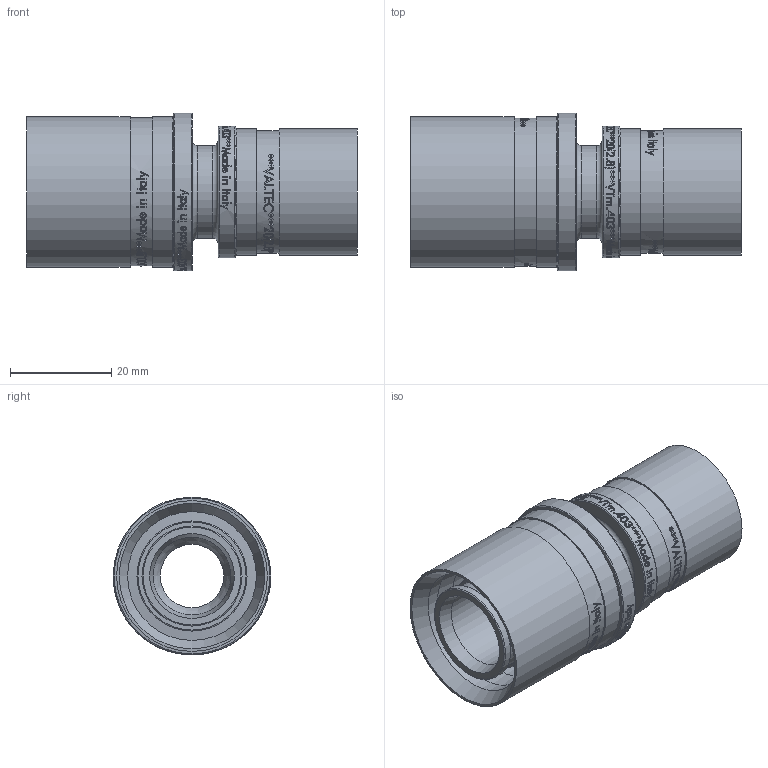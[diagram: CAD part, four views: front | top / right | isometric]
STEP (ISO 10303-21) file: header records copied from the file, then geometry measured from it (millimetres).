
FILE_DESCRIPTION(/* description */ (''),/* implementation_level */ '2;1');
FILE_NAME(/* name */ 'F:\Артём\00000\Работа удаленка\Аксеальные фитинги\VTm.403.BG.002520.stp',/* time_stamp */ '2021-01-25T16:23:26+03:00',/* author */ ('almis'),/* organization */ (''),/* preprocessor_version */ 'ST-DEVELOPER v18',/* originating_system */ 'Autodesk Inventor 2020',/* authorisation */ '');
FILE_SCHEMA (('AUTOMOTIVE_DESIGN { 1 0 10303 214 3 1 1 }'));
Length unit declared in the file: millimetre
Products named in the file (1): VTm.403.BG.002520
Bounding box: 65.53 x 31.2 x 31.2 mm (x, y, z)
Volume: 16799.7 mm3; surface area: 17404.4 mm2
Topology: 1 solids, 1 shells, 2513 faces, 6915 edges, 4641 vertices
Faces by surface type: bspline 1420, plane 778, cylinder 255, torus 46, cone 14
Full cylindrical faces by diameter (mm): 12.6 x1, 15.4 x1, 15.7 x5, 16.5 x4, 18.2 x1, 18.3 x6, 19.8 x4, 20.65 x2, 21.8 x1, 24.3 x1, 25 x2, 25.5 x2, 26 x1, 29.3 x1, 29.85 x2, 31.2 x1
Entity records: 106083 total; most frequent: CARTESIAN_POINT 50666, ORIENTED_EDGE 13830, DIRECTION 7374, EDGE_CURVE 6915, VERTEX_POINT 4641, LINE 2960, VECTOR 2960, B_SPLINE_CURVE_WITH_KNOTS 2842
